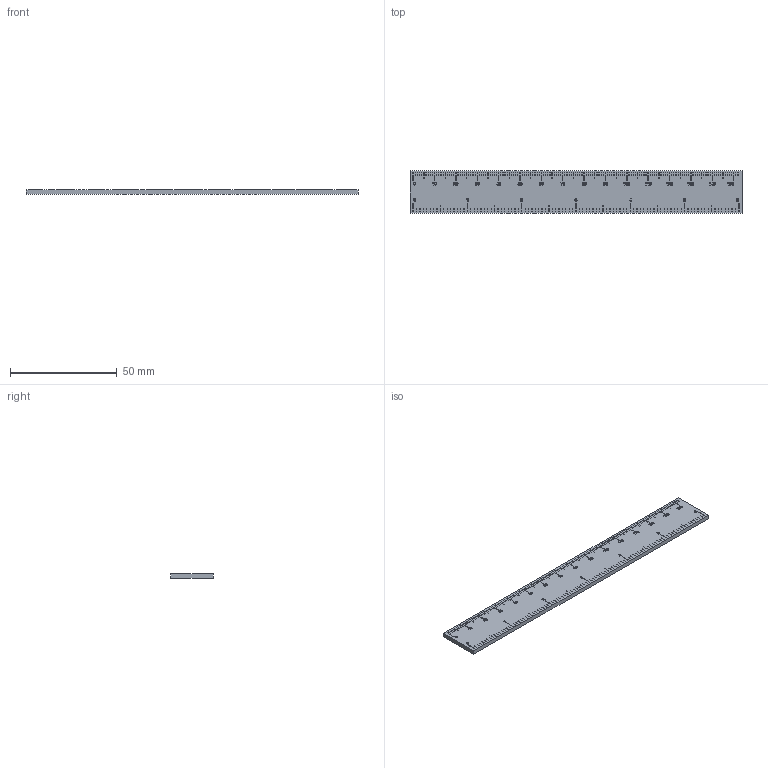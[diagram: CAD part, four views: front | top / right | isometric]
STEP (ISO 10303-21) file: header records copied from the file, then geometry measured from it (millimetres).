
FILE_DESCRIPTION(('Open CASCADE Model'),'2;1');
FILE_NAME('Open CASCADE Shape Model','2026-11-25T12:49:41',('Author'),( 'Open CASCADE'),'Open CASCADE STEP processor 8.0','Open CASCADE 8.0' ,'Unknown');
FILE_SCHEMA(('AP242_MANAGED_MODEL_BASED_3D_ENGINEERING_MIM_LF {1 0 10303 442 1 1 4 }' ));
Products named in the file (1): Aluminum blank
Bounding box: 155.4 x 20 x 2 mm (x, y, z)
Volume: 6201 mm3; surface area: 7150.1 mm2
Topology: 1 solids, 1 shells, 2046 faces, 5172 edges, 3448 vertices
Faces by surface type: plane 1472, extrusion 574
Entity records: 135140 total; most frequent: CARTESIAN_POINT 39104, DIRECTION 13874, VECTOR 10928, LINE 10354, ORIENTED_EDGE 10344, PCURVE 10344, DEFINITIONAL_REPRESENTATION 10344, B_SPLINE_CURVE_WITH_KNOTS 5736
